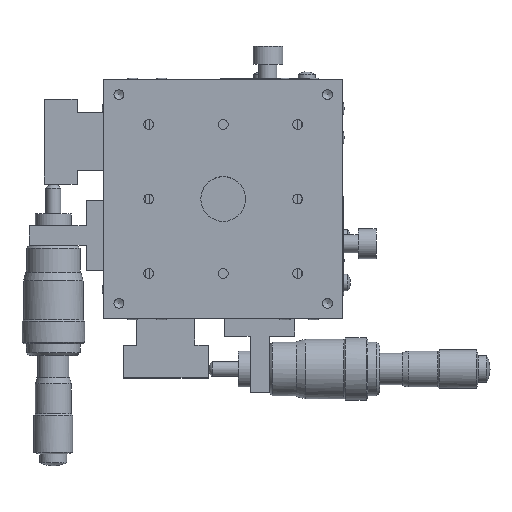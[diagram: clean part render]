
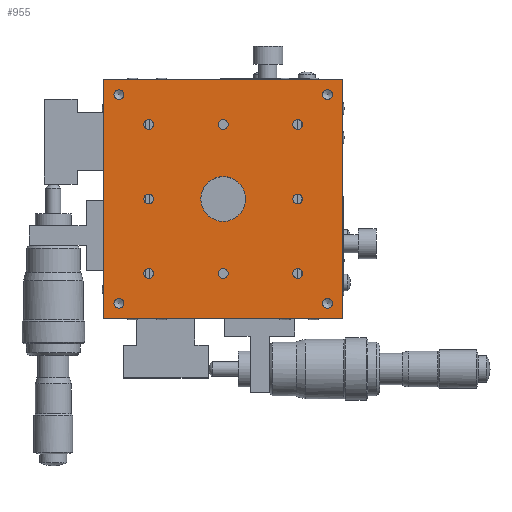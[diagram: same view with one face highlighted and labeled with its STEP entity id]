
A CAD part, top view. The second image highlights one B-rep face of the part: STEP entity #955.
In plain terms, the highlighted planar face has unit normal (0, 0, 1).
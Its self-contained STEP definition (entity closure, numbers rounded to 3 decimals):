
#955 = ADVANCED_FACE( '', ( #2109, #2110, #2111, #2112, #2113, #2114, #2115, #2116, #2117, #2118, #2119, #2120, #2121, #2122 ), #2123, .T. );
#2109 = FACE_BOUND( '', #3384, .T. );
#2110 = FACE_BOUND( '', #3385, .T. );
#2111 = FACE_BOUND( '', #3386, .T. );
#2112 = FACE_BOUND( '', #3387, .T. );
#2113 = FACE_BOUND( '', #3388, .T. );
#2114 = FACE_BOUND( '', #3389, .T. );
#2115 = FACE_BOUND( '', #3390, .T. );
#2116 = FACE_BOUND( '', #3391, .T. );
#2117 = FACE_BOUND( '', #3392, .T. );
#2118 = FACE_BOUND( '', #3393, .T. );
#2119 = FACE_BOUND( '', #3394, .T. );
#2120 = FACE_BOUND( '', #3395, .T. );
#2121 = FACE_OUTER_BOUND( '', #3396, .T. );
#2122 = FACE_BOUND( '', #3397, .T. );
#2123 = PLANE( '', #3398 );
#3384 = EDGE_LOOP( '', ( #5842 ) );
#3385 = EDGE_LOOP( '', ( #5843 ) );
#3386 = EDGE_LOOP( '', ( #5844 ) );
#3387 = EDGE_LOOP( '', ( #5845 ) );
#3388 = EDGE_LOOP( '', ( #5846 ) );
#3389 = EDGE_LOOP( '', ( #5847 ) );
#3390 = EDGE_LOOP( '', ( #5848 ) );
#3391 = EDGE_LOOP( '', ( #5849 ) );
#3392 = EDGE_LOOP( '', ( #5850 ) );
#3393 = EDGE_LOOP( '', ( #5851 ) );
#3394 = EDGE_LOOP( '', ( #5852 ) );
#3395 = EDGE_LOOP( '', ( #5853 ) );
#3396 = EDGE_LOOP( '', ( #5854, #5855, #5856, #5857 ) );
#3397 = EDGE_LOOP( '', ( #5858 ) );
#3398 = AXIS2_PLACEMENT_3D( '', #5859, #5860, #5861 );
#5842 = ORIENTED_EDGE( '', *, *, #7135, .T. );
#5843 = ORIENTED_EDGE( '', *, *, #7122, .T. );
#5844 = ORIENTED_EDGE( '', *, *, #7202, .T. );
#5845 = ORIENTED_EDGE( '', *, *, #7129, .T. );
#5846 = ORIENTED_EDGE( '', *, *, #7267, .T. );
#5847 = ORIENTED_EDGE( '', *, *, #7050, .T. );
#5848 = ORIENTED_EDGE( '', *, *, #7231, .T. );
#5849 = ORIENTED_EDGE( '', *, *, #7303, .T. );
#5850 = ORIENTED_EDGE( '', *, *, #7229, .T. );
#5851 = ORIENTED_EDGE( '', *, *, #7262, .T. );
#5852 = ORIENTED_EDGE( '', *, *, #6690, .T. );
#5853 = ORIENTED_EDGE( '', *, *, #6993, .T. );
#5854 = ORIENTED_EDGE( '', *, *, #6976, .F. );
#5855 = ORIENTED_EDGE( '', *, *, #7127, .F. );
#5856 = ORIENTED_EDGE( '', *, *, #6679, .F. );
#5857 = ORIENTED_EDGE( '', *, *, #6496, .F. );
#5858 = ORIENTED_EDGE( '', *, *, #7187, .T. );
#5859 = CARTESIAN_POINT( '', ( 0., 0., 40. ) );
#5860 = DIRECTION( '', ( 0., 0., 1. ) );
#5861 = DIRECTION( '', ( 1., 0., 0. ) );
#6496 = EDGE_CURVE( '', #7598, #7600, #7601, .T. );
#6679 = EDGE_CURVE( '', #7600, #7910, #7911, .T. );
#6690 = EDGE_CURVE( '', #7928, #7928, #7929, .T. );
#6976 = EDGE_CURVE( '', #8380, #7598, #8382, .T. );
#6993 = EDGE_CURVE( '', #8407, #8407, #8408, .T. );
#7050 = EDGE_CURVE( '', #8490, #8490, #8491, .T. );
#7122 = EDGE_CURVE( '', #8589, #8589, #8590, .T. );
#7127 = EDGE_CURVE( '', #7910, #8380, #8595, .T. );
#7129 = EDGE_CURVE( '', #8597, #8597, #8598, .T. );
#7135 = EDGE_CURVE( '', #8605, #8605, #8606, .T. );
#7187 = EDGE_CURVE( '', #8679, #8679, #8680, .F. );
#7202 = EDGE_CURVE( '', #8702, #8702, #8703, .T. );
#7229 = EDGE_CURVE( '', #8742, #8742, #8743, .T. );
#7231 = EDGE_CURVE( '', #8745, #8745, #8746, .T. );
#7262 = EDGE_CURVE( '', #8784, #8784, #8785, .T. );
#7267 = EDGE_CURVE( '', #8791, #8791, #8792, .T. );
#7303 = EDGE_CURVE( '', #8834, #8834, #8835, .T. );
#7598 = VERTEX_POINT( '', #9188 );
#7600 = VERTEX_POINT( '', #9191 );
#7601 = LINE( '', #9192, #9193 );
#7910 = VERTEX_POINT( '', #9619 );
#7911 = LINE( '', #9620, #9621 );
#7928 = VERTEX_POINT( '', #9641 );
#7929 = CIRCLE( '', #9642, 1.65 );
#8380 = VERTEX_POINT( '', #10252 );
#8382 = LINE( '', #10255, #10256 );
#8407 = VERTEX_POINT( '', #10290 );
#8408 = CIRCLE( '', #10291, 1.65 );
#8490 = VERTEX_POINT( '', #10404 );
#8491 = CIRCLE( '', #10405, 1.65 );
#8589 = VERTEX_POINT( '', #10529 );
#8590 = CIRCLE( '', #10530, 1.65 );
#8595 = LINE( '', #10536, #10537 );
#8597 = VERTEX_POINT( '', #10539 );
#8598 = CIRCLE( '', #10540, 1.65 );
#8605 = VERTEX_POINT( '', #10549 );
#8606 = CIRCLE( '', #10550, 1.65 );
#8679 = VERTEX_POINT( '', #10634 );
#8680 = CIRCLE( '', #10635, 7.5 );
#8702 = VERTEX_POINT( '', #10657 );
#8703 = CIRCLE( '', #10658, 1.65 );
#8742 = VERTEX_POINT( '', #10706 );
#8743 = CIRCLE( '', #10707, 1.65 );
#8745 = VERTEX_POINT( '', #10709 );
#8746 = CIRCLE( '', #10710, 1.65 );
#8784 = VERTEX_POINT( '', #10757 );
#8785 = CIRCLE( '', #10758, 1.65 );
#8791 = VERTEX_POINT( '', #10764 );
#8792 = CIRCLE( '', #10765, 1.65 );
#8834 = VERTEX_POINT( '', #10822 );
#8835 = CIRCLE( '', #10823, 1.65 );
#9188 = CARTESIAN_POINT( '', ( -40., 40., 40. ) );
#9191 = CARTESIAN_POINT( '', ( 40., 40., 40. ) );
#9192 = CARTESIAN_POINT( '', ( 0., 40., 40. ) );
#9193 = VECTOR( '', #11129, 1000. );
#9619 = CARTESIAN_POINT( '', ( 40., -40., 40. ) );
#9620 = CARTESIAN_POINT( '', ( 40., 0., 40. ) );
#9621 = VECTOR( '', #11331, 1000. );
#9641 = CARTESIAN_POINT( '', ( 35., -36.65, 40. ) );
#9642 = AXIS2_PLACEMENT_3D( '', #11347, #11348, #11349 );
#10252 = CARTESIAN_POINT( '', ( -40., -40., 40. ) );
#10255 = CARTESIAN_POINT( '', ( -40., 0., 40. ) );
#10256 = VECTOR( '', #11687, 1000. );
#10290 = CARTESIAN_POINT( '', ( -35., -36.65, 40. ) );
#10291 = AXIS2_PLACEMENT_3D( '', #11706, #11707, #11708 );
#10404 = CARTESIAN_POINT( '', ( 25., -26.65, 40. ) );
#10405 = AXIS2_PLACEMENT_3D( '', #11770, #11771, #11772 );
#10529 = CARTESIAN_POINT( '', ( -25., 23.35, 40. ) );
#10530 = AXIS2_PLACEMENT_3D( '', #11859, #11860, #11861 );
#10536 = CARTESIAN_POINT( '', ( 0., -40., 40. ) );
#10537 = VECTOR( '', #11863, 1000. );
#10539 = CARTESIAN_POINT( '', ( 25., 23.35, 40. ) );
#10540 = AXIS2_PLACEMENT_3D( '', #11864, #11865, #11866 );
#10549 = CARTESIAN_POINT( '', ( -25., -1.65, 40. ) );
#10550 = AXIS2_PLACEMENT_3D( '', #11872, #11873, #11874 );
#10634 = CARTESIAN_POINT( '', ( 0., -7.5, 40. ) );
#10635 = AXIS2_PLACEMENT_3D( '', #11946, #11947, #11948 );
#10657 = CARTESIAN_POINT( '', ( 0., 23.35, 40. ) );
#10658 = AXIS2_PLACEMENT_3D( '', #11970, #11971, #11972 );
#10706 = CARTESIAN_POINT( '', ( -35., 33.35, 40. ) );
#10707 = AXIS2_PLACEMENT_3D( '', #12006, #12007, #12008 );
#10709 = CARTESIAN_POINT( '', ( 0., -26.65, 40. ) );
#10710 = AXIS2_PLACEMENT_3D( '', #12009, #12010, #12011 );
#10757 = CARTESIAN_POINT( '', ( 35., 33.35, 40. ) );
#10758 = AXIS2_PLACEMENT_3D( '', #12045, #12046, #12047 );
#10764 = CARTESIAN_POINT( '', ( 25., -1.65, 40. ) );
#10765 = AXIS2_PLACEMENT_3D( '', #12054, #12055, #12056 );
#10822 = CARTESIAN_POINT( '', ( -25., -26.65, 40. ) );
#10823 = AXIS2_PLACEMENT_3D( '', #12087, #12088, #12089 );
#11129 = DIRECTION( '', ( 1., 0., 0. ) );
#11331 = DIRECTION( '', ( 0., -1., 0. ) );
#11347 = CARTESIAN_POINT( '', ( 35., -35., 40. ) );
#11348 = DIRECTION( '', ( 0., 0., -1. ) );
#11349 = DIRECTION( '', ( 0., -1., 0. ) );
#11687 = DIRECTION( '', ( 0., 1., 0. ) );
#11706 = CARTESIAN_POINT( '', ( -35., -35., 40. ) );
#11707 = DIRECTION( '', ( 0., 0., -1. ) );
#11708 = DIRECTION( '', ( 0., -1., 0. ) );
#11770 = CARTESIAN_POINT( '', ( 25., -25., 40. ) );
#11771 = DIRECTION( '', ( 0., 0., -1. ) );
#11772 = DIRECTION( '', ( 0., -1., 0. ) );
#11859 = CARTESIAN_POINT( '', ( -25., 25., 40. ) );
#11860 = DIRECTION( '', ( 0., 0., -1. ) );
#11861 = DIRECTION( '', ( 0., -1., 0. ) );
#11863 = DIRECTION( '', ( -1., 0., 0. ) );
#11864 = CARTESIAN_POINT( '', ( 25., 25., 40. ) );
#11865 = DIRECTION( '', ( 0., 0., -1. ) );
#11866 = DIRECTION( '', ( 0., -1., 0. ) );
#11872 = CARTESIAN_POINT( '', ( -25., 0., 40. ) );
#11873 = DIRECTION( '', ( 0., 0., -1. ) );
#11874 = DIRECTION( '', ( 0., -1., 0. ) );
#11946 = CARTESIAN_POINT( '', ( 0., 0., 40. ) );
#11947 = DIRECTION( '', ( 0., 0., 1. ) );
#11948 = DIRECTION( '', ( 0., -1., 0. ) );
#11970 = CARTESIAN_POINT( '', ( 0., 25., 40. ) );
#11971 = DIRECTION( '', ( 0., 0., -1. ) );
#11972 = DIRECTION( '', ( 0., -1., 0. ) );
#12006 = CARTESIAN_POINT( '', ( -35., 35., 40. ) );
#12007 = DIRECTION( '', ( 0., 0., -1. ) );
#12008 = DIRECTION( '', ( 0., -1., 0. ) );
#12009 = CARTESIAN_POINT( '', ( 0., -25., 40. ) );
#12010 = DIRECTION( '', ( 0., 0., -1. ) );
#12011 = DIRECTION( '', ( 0., -1., 0. ) );
#12045 = CARTESIAN_POINT( '', ( 35., 35., 40. ) );
#12046 = DIRECTION( '', ( 0., 0., -1. ) );
#12047 = DIRECTION( '', ( 0., -1., 0. ) );
#12054 = CARTESIAN_POINT( '', ( 25., 0., 40. ) );
#12055 = DIRECTION( '', ( 0., 0., -1. ) );
#12056 = DIRECTION( '', ( 0., -1., 0. ) );
#12087 = CARTESIAN_POINT( '', ( -25., -25., 40. ) );
#12088 = DIRECTION( '', ( 0., 0., -1. ) );
#12089 = DIRECTION( '', ( 0., -1., 0. ) );
